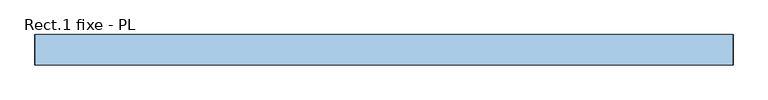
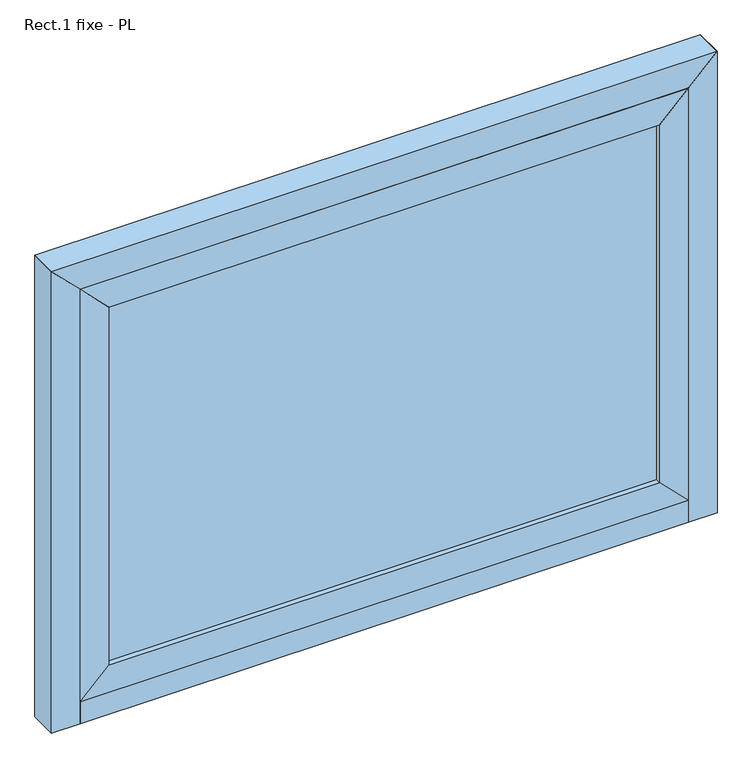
"""IFC4 building model written with IfcOpenShell, lengths in millimetres: window geometry, Rect.1 fixe - PL : 110*82."""

from ifc_helpers import new_model, si_unit, frame, origin, origin_with_axes, place, context, project, spatial, polyline, outline, extrude, source, transform, mapped, element, save


def rect_1_fixe_pl_6035d403(model_context):
    return source(origin(), model_context, "Body", "SweptSolid", [
        extrude(outline(polyline([(480.0, 10.0), (-480.0, 10.0), (-480.0, 30.0), (480.0, 30.0), (480.0, 10.0)])), frame((0.0, 0.0, 90.0), z_axis=(0.0, 0.0, 1.0), x_axis=(1.0, 0.0, 0.0)), (0.0, 0.0, 1.0), 660.0),
        extrude(outline(polyline([(40.0, 530.0), (90.0, 480.0), (90.0, -480.0), (40.0, -530.0), (40.0, 530.0)])), frame((0.0, 0.0, 0.0), z_axis=(0.0, 1.0, 0.0), x_axis=(0.0, 0.0, 1.0)), (0.0, 0.0, 1.0), 40.0),
        extrude(outline(polyline([(40.0, -530.0), (90.0, -480.0), (750.0, -480.0), (800.0, -530.0), (40.0, -530.0)])), frame((0.0, 0.0, 0.0), z_axis=(0.0, 1.0, 0.0), x_axis=(0.0, 0.0, 1.0)), (0.0, 0.0, 1.0), 40.0),
        extrude(outline(polyline([(90.0, 480.0), (40.0, 530.0), (800.0, 530.0), (750.0, 480.0), (90.0, 480.0)])), frame((0.0, 0.0, 0.0), z_axis=(0.0, 1.0, 0.0), x_axis=(0.0, 0.0, 1.0)), (0.0, 0.0, 1.0), 40.0),
        extrude(outline(polyline([(800.0, 530.0), (800.0, -530.0), (750.0, -480.0), (750.0, 480.0), (800.0, 530.0)])), frame((0.0, 0.0, 0.0), z_axis=(0.0, 1.0, 0.0), x_axis=(0.0, 0.0, 1.0)), (0.0, 0.0, 1.0), 40.0),
        extrude(outline(polyline([(830.0, 560.0), (820.0, 550.0), (0.0, 550.0), (0.0, 560.0), (830.0, 560.0)])), frame((0.0, 10.0, 0.0), z_axis=(0.0, 1.0, 0.0), x_axis=(0.0, 0.0, 1.0)), (0.0, 0.0, 1.0), 40.0),
        extrude(outline(polyline([(830.0, -560.0), (0.0, -560.0), (0.0, -550.0), (820.0, -550.0), (830.0, -560.0)])), frame((0.0, 10.0, 0.0), z_axis=(0.0, 1.0, 0.0), x_axis=(0.0, 0.0, 1.0)), (0.0, 0.0, 1.0), 40.0),
        extrude(outline(polyline([(530.0, 50.0), (530.0, 0.0), (-530.0, 0.0), (-530.0, 50.0), (530.0, 50.0)])), origin_with_axes(), (0.0, 0.0, 1.0), 40.0),
        extrude(outline(polyline([(0.0, -580.0), (0.0, -530.0), (800.0, -530.0), (850.0, -580.0), (0.0, -580.0)])), frame((0.0, 0.0, 0.0), z_axis=(0.0, 1.0, 0.0), x_axis=(0.0, 0.0, 1.0)), (0.0, 0.0, 1.0), 50.0),
        extrude(outline(polyline([(0.0, 580.0), (850.0, 580.0), (800.0, 530.0), (0.0, 530.0), (0.0, 580.0)])), frame((0.0, 0.0, 0.0), z_axis=(0.0, 1.0, 0.0), x_axis=(0.0, 0.0, 1.0)), (0.0, 0.0, 1.0), 50.0),
        extrude(outline(polyline([(20.0, 30.0), (50.0, 40.0), (50.0, 0.0), (20.0, 0.0), (20.0, 30.0)])), frame((-550.0, 0.0, 0.0), z_axis=(1.0, 0.0, 0.0), x_axis=(0.0, 1.0, 0.0)), (0.0, 0.0, 1.0), 1100.0),
        extrude(outline(polyline([(830.0, -560.0), (820.0, -550.0), (820.0, 550.0), (830.0, 560.0), (830.0, -560.0)])), frame((0.0, 10.0, 0.0), z_axis=(0.0, 1.0, 0.0), x_axis=(0.0, 0.0, 1.0)), (0.0, 0.0, 1.0), 40.0),
        extrude(outline(polyline([(850.0, 580.0), (850.0, -580.0), (800.0, -530.0), (800.0, 530.0), (850.0, 580.0)])), frame((0.0, 0.0, 0.0), z_axis=(0.0, 1.0, 0.0), x_axis=(0.0, 0.0, 1.0)), (0.0, 0.0, 1.0), 50.0),
    ])


if __name__ == "__main__":
    model = new_model("IFC4")
    model_context = context("Model", 3, world=origin())
    ifc_project = project(units=[si_unit("LENGTHUNIT", "METRE", prefix="MILLI")], contexts=[model_context])
    site = spatial("IfcSite", under=ifc_project)
    building = spatial("IfcBuilding", under=site)
    placement = place(None, origin())
    rect_1_fixe_pl_shape = rect_1_fixe_pl_6035d403(model_context)
    element("IfcWindow", 1, ObjectType="Rect.1 fixe - PL : 110*82", at=placement, inside=building, context=model_context, shape_type="MappedRepresentation", body=[
        mapped(rect_1_fixe_pl_shape, transform((0.0, 0.0, 0.0), x_axis=(1.0, 0.0, 0.0), y_axis=(0.0, 1.0, 0.0), z_axis=(0.0, 0.0, 1.0))),
    ])
    save(model, "model.ifc")
